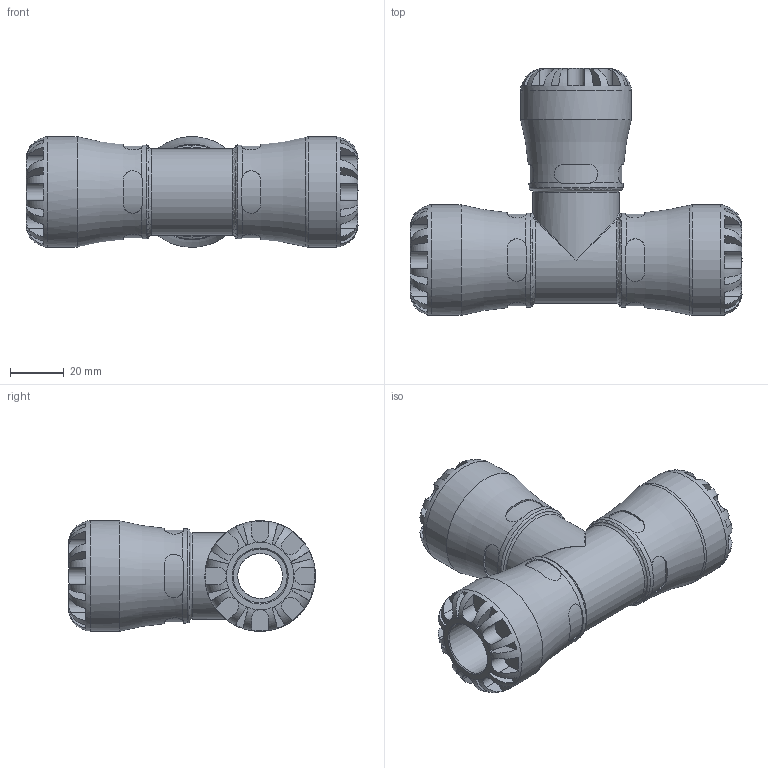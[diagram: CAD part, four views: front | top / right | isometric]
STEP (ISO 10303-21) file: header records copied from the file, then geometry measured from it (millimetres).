
FILE_DESCRIPTION(/* description */ ('PLASSON TEE 20X20X20 SERIES 1'),/* implementation_level */ '2;1');
FILE_NAME(/* name */ 'C:\Dropbox\KIMPROJECTS-Inventor\99-16-3568-Processing\S1\1004\100400020_190400020.ipt.stp',/* time_stamp */ '2018-02-11T12:57:34+02:00',/* author */ ('KIM'),/* organization */ (''),/* preprocessor_version */ 'ST-DEVELOPER v15.6',/* originating_system */ 'Autodesk Inventor 2015',/* authorisation */ '');
FILE_SCHEMA (('AUTOMOTIVE_DESIGN { 1 0 10303 214 3 1 1 }'));
Length unit declared in the file: millimetre
Products named in the file (1): 100400020_190400020
Bounding box: 123 x 91.5 x 41 mm (x, y, z)
Volume: 128818.3 mm3; surface area: 37175.3 mm2
Topology: 1 solids, 1 shells, 296 faces, 787 edges, 491 vertices
Faces by surface type: plane 174, cylinder 97, torus 13, bspline 10, cone 2
Full cylindrical faces by diameter (mm): 16.667 x2, 20 x3, 31.98 x1, 34.85 x3, 41 x3
Entity records: 12023 total; most frequent: CARTESIAN_POINT 4941, ORIENTED_EDGE 1482, DIRECTION 1360, EDGE_CURVE 741, AXIS2_PLACEMENT_3D 560, VERTEX_POINT 475, EDGE_LOOP 328, FACE_OUTER_BOUND 296
